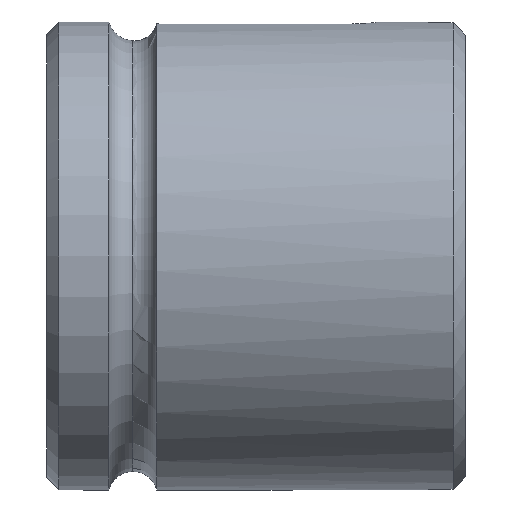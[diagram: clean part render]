
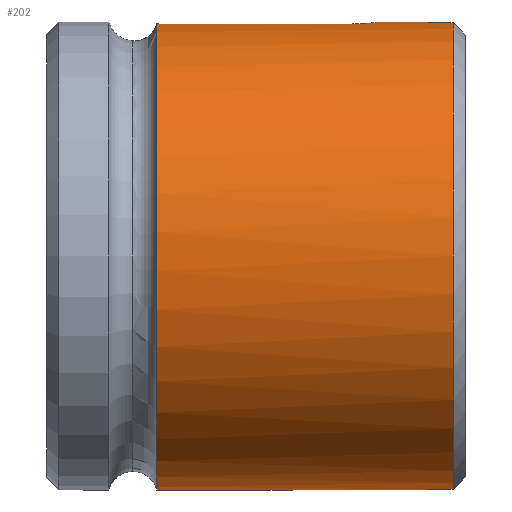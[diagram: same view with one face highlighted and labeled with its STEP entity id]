
A CAD part, front view. The second image highlights one B-rep face of the part: STEP entity #202.
In plain terms, the highlighted cylindrical face has radius 19 mm (diameter 38 mm), a partial arc.
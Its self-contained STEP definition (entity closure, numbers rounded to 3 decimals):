
#47 = CARTESIAN_POINT ( 'NONE',  ( -3., -1.5, 18.941 ) ) ;
#61 = CARTESIAN_POINT ( 'NONE',  ( -7.128, -0.806, 18.983 ) ) ;
#72 = CARTESIAN_POINT ( 'NONE',  ( -25.064, -2.436, 18.843 ) ) ;
#74 = CIRCLE ( 'NONE', #566, 19. ) ;
#93 = AXIS2_PLACEMENT_3D ( 'NONE', #925, #652, #121 ) ;
#101 = LINE ( 'NONE', #516, #521 ) ;
#119 = CIRCLE ( 'NONE', #1163, 19. ) ;
#121 = DIRECTION ( 'NONE',  ( 0., 0., 1. ) ) ;
#127 = ORIENTED_EDGE ( 'NONE', *, *, #802, .T. ) ;
#130 = DIRECTION ( 'NONE',  ( -1., 0., 0. ) ) ;
#133 = AXIS2_PLACEMENT_3D ( 'NONE', #245, #870, #330 ) ;
#147 = CARTESIAN_POINT ( 'NONE',  ( -9.5, -2.5, 18.835 ) ) ;
#152 = CARTESIAN_POINT ( 'NONE',  ( -7.016, -0.326, 18.998 ) ) ;
#153 = CARTESIAN_POINT ( 'NONE',  ( -3., 0., -19. ) ) ;
#201 = VERTEX_POINT ( 'NONE', #557 ) ;
#202 = ADVANCED_FACE ( 'NONE', ( #1071 ), #343, .T. ) ;
#203 = VECTOR ( 'NONE', #1160, 1000. ) ;
#220 = ORIENTED_EDGE ( 'NONE', *, *, #376, .F. ) ;
#241 = CARTESIAN_POINT ( 'NONE',  ( -8.693, -2.372, 18.851 ) ) ;
#245 = CARTESIAN_POINT ( 'NONE',  ( -3., 0., 0. ) ) ;
#246 = CARTESIAN_POINT ( 'NONE',  ( -7., 0., 19. ) ) ;
#263 = EDGE_CURVE ( 'NONE', #201, #755, #74, .T. ) ;
#266 = CARTESIAN_POINT ( 'NONE',  ( -24.69, -2.5, 18.835 ) ) ;
#286 = CARTESIAN_POINT ( 'NONE',  ( -1., 0., 0. ) ) ;
#299 = LINE ( 'NONE', #807, #735 ) ;
#323 = CARTESIAN_POINT ( 'NONE',  ( -9.5, -2.5, 18.835 ) ) ;
#324 = ORIENTED_EDGE ( 'NONE', *, *, #732, .F. ) ;
#329 = CARTESIAN_POINT ( 'NONE',  ( -8.247, -2.169, 18.876 ) ) ;
#330 = DIRECTION ( 'NONE',  ( 0., -1., 0. ) ) ;
#331 = VECTOR ( 'NONE', #593, 1000. ) ;
#343 = CYLINDRICAL_SURFACE ( 'NONE', #93, 19. ) ;
#350 = VERTEX_POINT ( 'NONE', #861 ) ;
#352 = DIRECTION ( 'NONE',  ( -1., 0., 0. ) ) ;
#369 = DIRECTION ( 'NONE',  ( 0., 0., 1. ) ) ;
#376 = EDGE_CURVE ( 'NONE', #497, #607, #575, .T. ) ;
#390 = B_SPLINE_CURVE_WITH_KNOTS ( 'NONE', 3,
 ( #702, #1158, #266, #889 ),
 .UNSPECIFIED., .F., .F.,
 ( 4, 4 ),
 ( 0., 0.001 ),
 .UNSPECIFIED. ) ;
#393 = VERTEX_POINT ( 'NONE', #871 ) ;
#417 = CARTESIAN_POINT ( 'NONE',  ( -7.847, -1.882, 18.907 ) ) ;
#427 = VECTOR ( 'NONE', #994, 1000. ) ;
#435 = CARTESIAN_POINT ( 'NONE',  ( -24.5, -2.5, 18.835 ) ) ;
#474 = ORIENTED_EDGE ( 'NONE', *, *, #966, .T. ) ;
#497 = VERTEX_POINT ( 'NONE', #323 ) ;
#501 = CARTESIAN_POINT ( 'NONE',  ( -7.513, -1.526, 18.939 ) ) ;
#516 = CARTESIAN_POINT ( 'NONE',  ( -67.863, 0., 19. ) ) ;
#517 = VERTEX_POINT ( 'NONE', #47 ) ;
#521 = VECTOR ( 'NONE', #605, 1000. ) ;
#522 = CARTESIAN_POINT ( 'NONE',  ( -3., -1.5, -18.941 ) ) ;
#557 = CARTESIAN_POINT ( 'NONE',  ( -25.064, 0., -19. ) ) ;
#566 = AXIS2_PLACEMENT_3D ( 'NONE', #662, #130, #759 ) ;
#575 = B_SPLINE_CURVE_WITH_KNOTS ( 'NONE', 3,
 ( #147, #1134, #1052, #778, #241, #867, #329, #959, #417, #1057, #501, #1141, #589, #61, #684, #152, #782, #246 ),
 .UNSPECIFIED., .F., .F.,
 ( 4, 2, 2, 2, 2, 2, 2, 2, 4 ),
 ( 0., 0., 0.001, 0.001, 0.002, 0.002, 0.003, 0.003, 0.004 ),
 .UNSPECIFIED. ) ;
#589 = CARTESIAN_POINT ( 'NONE',  ( -7.253, -1.107, 18.968 ) ) ;
#593 = DIRECTION ( 'NONE',  ( 1., 0., 0. ) ) ;
#605 = DIRECTION ( 'NONE',  ( -1., 0., 0. ) ) ;
#607 = VERTEX_POINT ( 'NONE', #979 ) ;
#652 = DIRECTION ( 'NONE',  ( -1., 0., 0. ) ) ;
#662 = CARTESIAN_POINT ( 'NONE',  ( -25.064, 0., 0. ) ) ;
#684 = CARTESIAN_POINT ( 'NONE',  ( -7.08, -0.649, 18.99 ) ) ;
#695 = EDGE_CURVE ( 'NONE', #350, #1135, #119, .T. ) ;
#702 = CARTESIAN_POINT ( 'NONE',  ( -25.064, -2.436, 18.843 ) ) ;
#707 = DIRECTION ( 'NONE',  ( 1., 0., 0. ) ) ;
#729 = ORIENTED_EDGE ( 'NONE', *, *, #263, .F. ) ;
#731 = AXIS2_PLACEMENT_3D ( 'NONE', #893, #352, #988 ) ;
#732 = EDGE_CURVE ( 'NONE', #995, #497, #746, .T. ) ;
#735 = VECTOR ( 'NONE', #707, 1000. ) ;
#737 = VERTEX_POINT ( 'NONE', #153 ) ;
#741 = ORIENTED_EDGE ( 'NONE', *, *, #1106, .F. ) ;
#746 = LINE ( 'NONE', #961, #331 ) ;
#755 = VERTEX_POINT ( 'NONE', #72 ) ;
#759 = DIRECTION ( 'NONE',  ( 0., 0., 1. ) ) ;
#769 = ORIENTED_EDGE ( 'NONE', *, *, #983, .F. ) ;
#775 = ORIENTED_EDGE ( 'NONE', *, *, #695, .T. ) ;
#778 = CARTESIAN_POINT ( 'NONE',  ( -8.852, -2.42, 18.845 ) ) ;
#782 = CARTESIAN_POINT ( 'NONE',  ( -7., -0.163, 19. ) ) ;
#802 = EDGE_CURVE ( 'NONE', #517, #393, #1030, .T. ) ;
#807 = CARTESIAN_POINT ( 'NONE',  ( -67.863, -1.5, -18.941 ) ) ;
#818 = ORIENTED_EDGE ( 'NONE', *, *, #1014, .T. ) ;
#829 = EDGE_CURVE ( 'NONE', #1135, #517, #1152, .T. ) ;
#859 = EDGE_CURVE ( 'NONE', #737, #1097, #1123, .T. ) ;
#861 = CARTESIAN_POINT ( 'NONE',  ( -1., -1.5, -18.941 ) ) ;
#867 = CARTESIAN_POINT ( 'NONE',  ( -8.39, -2.246, 18.867 ) ) ;
#870 = DIRECTION ( 'NONE',  ( -1., 0., 0. ) ) ;
#871 = CARTESIAN_POINT ( 'NONE',  ( -3., 0., 19. ) ) ;
#889 = CARTESIAN_POINT ( 'NONE',  ( -24.5, -2.5, 18.835 ) ) ;
#893 = CARTESIAN_POINT ( 'NONE',  ( -3., 0., 0. ) ) ;
#898 = CARTESIAN_POINT ( 'NONE',  ( -67.863, -1.5, 18.941 ) ) ;
#910 = DIRECTION ( 'NONE',  ( -1., 0., 0. ) ) ;
#925 = CARTESIAN_POINT ( 'NONE',  ( -67.863, 0., 0. ) ) ;
#959 = CARTESIAN_POINT ( 'NONE',  ( -7.975, -1.988, 18.896 ) ) ;
#961 = CARTESIAN_POINT ( 'NONE',  ( -67.863, -2.5, 18.835 ) ) ;
#966 = EDGE_CURVE ( 'NONE', #393, #607, #101, .T. ) ;
#979 = CARTESIAN_POINT ( 'NONE',  ( -7., 0., 19. ) ) ;
#983 = EDGE_CURVE ( 'NONE', #755, #995, #390, .T. ) ;
#988 = DIRECTION ( 'NONE',  ( 0., -1., 0. ) ) ;
#994 = DIRECTION ( 'NONE',  ( -1., 0., 0. ) ) ;
#995 = VERTEX_POINT ( 'NONE', #435 ) ;
#1014 = EDGE_CURVE ( 'NONE', #1097, #350, #299, .T. ) ;
#1030 = CIRCLE ( 'NONE', #731, 19. ) ;
#1052 = CARTESIAN_POINT ( 'NONE',  ( -9.172, -2.484, 18.837 ) ) ;
#1057 = CARTESIAN_POINT ( 'NONE',  ( -7.616, -1.652, 18.928 ) ) ;
#1071 = FACE_OUTER_BOUND ( 'NONE', #1114, .T. ) ;
#1081 = CARTESIAN_POINT ( 'NONE',  ( -67.863, 0., -19. ) ) ;
#1087 = CARTESIAN_POINT ( 'NONE',  ( -1., -1.5, 18.941 ) ) ;
#1097 = VERTEX_POINT ( 'NONE', #522 ) ;
#1106 = EDGE_CURVE ( 'NONE', #737, #201, #1155, .T. ) ;
#1108 = ORIENTED_EDGE ( 'NONE', *, *, #829, .T. ) ;
#1114 = EDGE_LOOP ( 'NONE', ( #741, #1154, #818, #775, #1108, #127, #474, #220, #324, #769, #729 ) ) ;
#1123 = CIRCLE ( 'NONE', #133, 19. ) ;
#1134 = CARTESIAN_POINT ( 'NONE',  ( -9.335, -2.5, 18.835 ) ) ;
#1135 = VERTEX_POINT ( 'NONE', #1087 ) ;
#1141 = CARTESIAN_POINT ( 'NONE',  ( -7.33, -1.253, 18.959 ) ) ;
#1152 = LINE ( 'NONE', #898, #427 ) ;
#1154 = ORIENTED_EDGE ( 'NONE', *, *, #859, .T. ) ;
#1155 = LINE ( 'NONE', #1081, #203 ) ;
#1158 = CARTESIAN_POINT ( 'NONE',  ( -24.878, -2.479, 18.838 ) ) ;
#1160 = DIRECTION ( 'NONE',  ( -1., 0., 0. ) ) ;
#1163 = AXIS2_PLACEMENT_3D ( 'NONE', #286, #910, #369 ) ;
